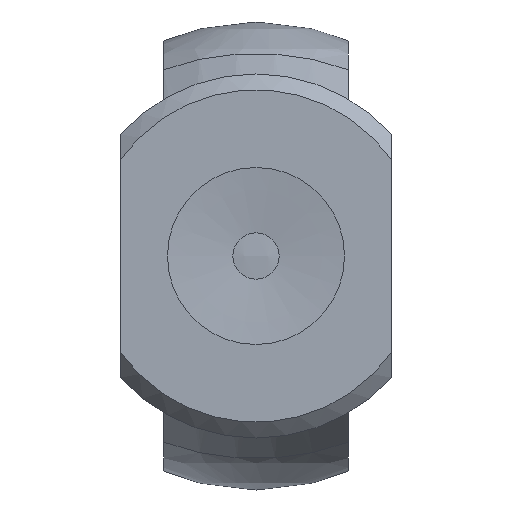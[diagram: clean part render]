
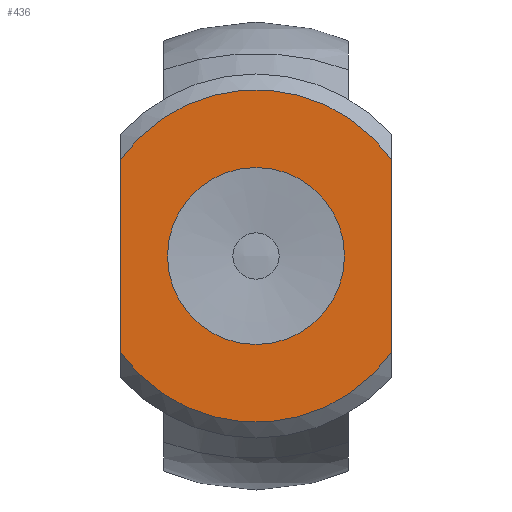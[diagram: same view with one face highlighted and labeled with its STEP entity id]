
A CAD part, front view. The second image highlights one B-rep face of the part: STEP entity #436.
In plain terms, the highlighted planar face has unit normal (0, -1, 0).
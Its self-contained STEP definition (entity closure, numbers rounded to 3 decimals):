
#57=CIRCLE('',#486,13.5);
#58=CIRCLE('',#487,13.5);
#59=CIRCLE('',#488,7.188);
#99=ORIENTED_EDGE('',*,*,#211,.T.);
#100=ORIENTED_EDGE('',*,*,#212,.F.);
#101=ORIENTED_EDGE('',*,*,#213,.T.);
#102=ORIENTED_EDGE('',*,*,#214,.F.);
#103=ORIENTED_EDGE('',*,*,#215,.T.);
#211=EDGE_CURVE('',#265,#266,#303,.T.);
#212=EDGE_CURVE('',#267,#266,#57,.T.);
#213=EDGE_CURVE('',#267,#268,#304,.T.);
#214=EDGE_CURVE('',#265,#268,#58,.T.);
#215=EDGE_CURVE('',#269,#269,#59,.T.);
#265=VERTEX_POINT('',#724);
#266=VERTEX_POINT('',#725);
#267=VERTEX_POINT('',#727);
#268=VERTEX_POINT('',#729);
#269=VERTEX_POINT('',#732);
#303=LINE('',#723,#323);
#304=LINE('',#728,#324);
#323=VECTOR('',#567,1000.);
#324=VECTOR('',#570,1000.);
#339=EDGE_LOOP('',(#99,#100,#101,#102));
#340=EDGE_LOOP('',(#103));
#383=FACE_BOUND('',#339,.T.);
#384=FACE_BOUND('',#340,.T.);
#423=PLANE('',#485);
#436=ADVANCED_FACE('',(#383,#384),#423,.T.);
#485=AXIS2_PLACEMENT_3D('',#722,#565,#566);
#486=AXIS2_PLACEMENT_3D('',#726,#568,#569);
#487=AXIS2_PLACEMENT_3D('',#730,#571,#572);
#488=AXIS2_PLACEMENT_3D('',#731,#573,#574);
#565=DIRECTION('',(0.,-1.,0.));
#566=DIRECTION('',(-1.,0.,0.));
#567=DIRECTION('',(0.,0.,-1.));
#568=DIRECTION('',(0.,1.,0.));
#569=DIRECTION('',(1.,0.,0.));
#570=DIRECTION('',(0.,0.,1.));
#571=DIRECTION('',(0.,1.,0.));
#572=DIRECTION('',(1.,0.,0.));
#573=DIRECTION('',(0.,1.,0.));
#574=DIRECTION('',(1.,0.,0.));
#722=CARTESIAN_POINT('',(6.75,-64.,0.));
#723=CARTESIAN_POINT('',(-11.,-64.,0.));
#724=CARTESIAN_POINT('',(-11.,-64.,7.826));
#725=CARTESIAN_POINT('',(-11.,-64.,-7.826));
#726=CARTESIAN_POINT('',(0.,-64.,0.));
#727=CARTESIAN_POINT('',(11.,-64.,-7.826));
#728=CARTESIAN_POINT('',(11.,-64.,0.));
#729=CARTESIAN_POINT('',(11.,-64.,7.826));
#730=CARTESIAN_POINT('',(0.,-64.,0.));
#731=CARTESIAN_POINT('',(0.,-64.,0.));
#732=CARTESIAN_POINT('',(7.188,-64.,0.));
